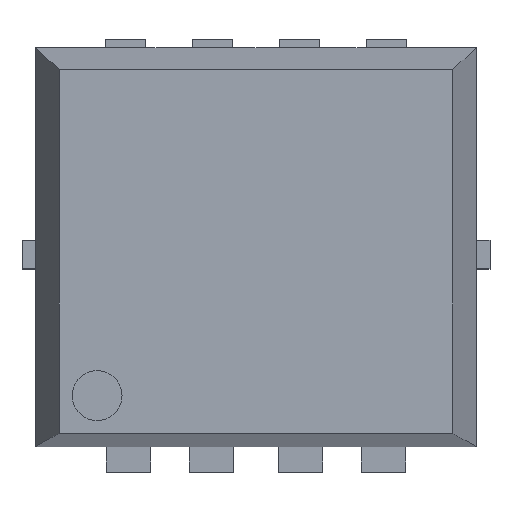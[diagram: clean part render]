
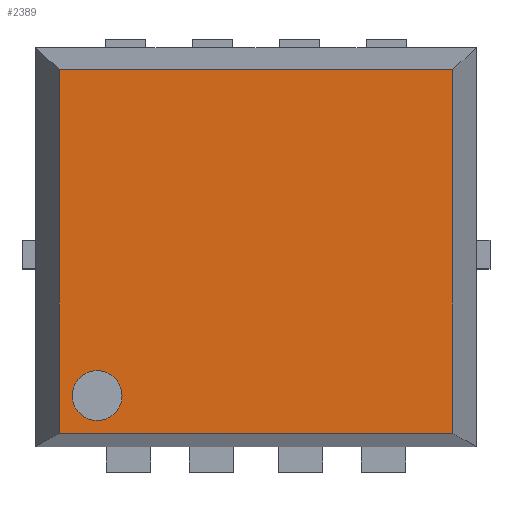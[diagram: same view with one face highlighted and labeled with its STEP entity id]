
A CAD part, top view. The second image highlights one B-rep face of the part: STEP entity #2389.
In plain terms, the highlighted planar face has unit normal (0, 0, 1).
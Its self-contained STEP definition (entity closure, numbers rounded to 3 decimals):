
#21=CIRCLE('',#2489,0.187);
#219=ORIENTED_EDGE('',*,*,#687,.T.);
#220=ORIENTED_EDGE('',*,*,#682,.T.);
#221=ORIENTED_EDGE('',*,*,#679,.T.);
#222=ORIENTED_EDGE('',*,*,#672,.T.);
#223=ORIENTED_EDGE('',*,*,#668,.T.);
#668=EDGE_CURVE('',#907,#908,#1074,.F.);
#672=EDGE_CURVE('',#909,#907,#1078,.F.);
#679=EDGE_CURVE('',#910,#909,#1085,.F.);
#682=EDGE_CURVE('',#908,#910,#1088,.F.);
#687=EDGE_CURVE('',#911,#911,#21,.T.);
#907=VERTEX_POINT('',#3312);
#908=VERTEX_POINT('',#3313);
#909=VERTEX_POINT('',#3319);
#910=VERTEX_POINT('',#3328);
#911=VERTEX_POINT('',#3339);
#1074=LINE('',#3311,#1320);
#1078=LINE('',#3318,#1324);
#1085=LINE('',#3327,#1331);
#1088=LINE('',#3332,#1334);
#1320=VECTOR('',#2756,1000.);
#1324=VECTOR('',#2762,1000.);
#1331=VECTOR('',#2771,1000.);
#1334=VECTOR('',#2776,1000.);
#1444=EDGE_LOOP('',(#219));
#1445=EDGE_LOOP('',(#220,#221,#222,#223));
#1540=FACE_BOUND('',#1444,.T.);
#1541=FACE_BOUND('',#1445,.T.);
#1636=PLANE('',#2488);
#2389=ADVANCED_FACE('',(#1540,#1541),#1636,.F.);
#2488=AXIS2_PLACEMENT_3D('',#3337,#2781,#2782);
#2489=AXIS2_PLACEMENT_3D('',#3338,#2783,#2784);
#2756=DIRECTION('',(0.,-1.,0.));
#2762=DIRECTION('',(-1.,0.,0.));
#2771=DIRECTION('',(0.,1.,0.));
#2776=DIRECTION('',(1.,0.,0.));
#2781=DIRECTION('',(0.,0.,-1.));
#2782=DIRECTION('',(-1.,0.,0.));
#2783=DIRECTION('',(0.,0.,-1.));
#2784=DIRECTION('',(1.,0.,0.));
#3311=CARTESIAN_POINT('',(1.473,1.36,0.75));
#3312=CARTESIAN_POINT('',(1.473,-1.364,0.75));
#3313=CARTESIAN_POINT('',(1.473,1.36,0.75));
#3318=CARTESIAN_POINT('',(1.473,-1.364,0.75));
#3319=CARTESIAN_POINT('',(-1.474,-1.364,0.75));
#3327=CARTESIAN_POINT('',(-1.474,-1.364,0.75));
#3328=CARTESIAN_POINT('',(-1.474,1.36,0.75));
#3332=CARTESIAN_POINT('',(-1.474,1.36,0.75));
#3337=CARTESIAN_POINT('',(0.736,0.679,0.75));
#3338=CARTESIAN_POINT('',(-1.19,-1.082,0.75));
#3339=CARTESIAN_POINT('',(-1.003,-1.082,0.75));
